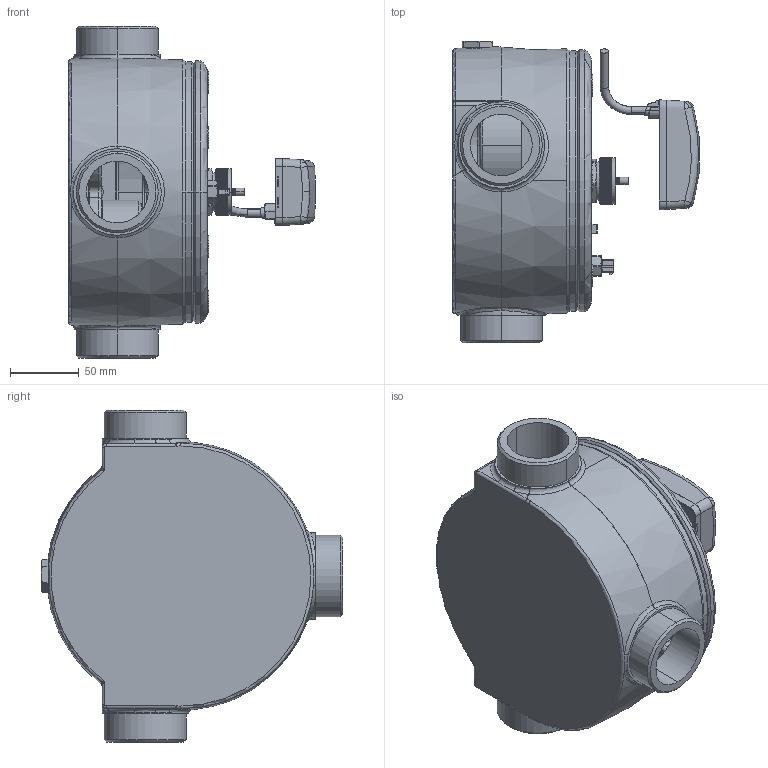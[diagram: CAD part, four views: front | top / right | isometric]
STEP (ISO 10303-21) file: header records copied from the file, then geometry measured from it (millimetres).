
FILE_DESCRIPTION (( 'STEP AP214' ), '1' );
FILE_NAME ('22TX96E37ELECV3.STEP', '2020-02-03T13:01:41', ( '' ), ( '' ), 'SwSTEP 2.0', 'SolidWorks 2017', '' );
FILE_SCHEMA (( 'AUTOMOTIVE_DESIGN' ));
Length unit declared in the file: millimetre
Products named in the file (29): 22TX96E37EV3_Enveloppe; 22014733; 22108611_22108611PE; 22018973; 22108637; 22113429 22113439 22113449 22113459 22113469_22113469; 22014725; 22091060_22110600_22110600M_22110601M; 1487128; 22018887; 148702800002; 028876700001_courb‚; 1589063_STRAIN_RELIEF; 1788016_asm_enveloppe; 22016123; 22TX96E37ELECV3; 22100382_22100382C; 1589063_SUB_ASM; 22018884; 22016518; 22012562; 148831500104; 22080640_Enveloppe; 1589063_ASM_enveloppe; 04082016_012; 22019082_enveloppe; 22014888; 04082016_011; 08082016_003
Assembly tree (33 placements, depth 6):
  22TX96E37ELECV3
    22TX96E37EV3_Enveloppe
      22108611_22108611PE
      22080640_Enveloppe
        22091060_22110600_22110600M_22110601M
        22012562
        22014888
        22018973
        22113429 22113439 22113449 22113459 22113469_22113469
        22108637
        22016518
        22014725
      22016123  x6
      22014733
      22100382_22100382C
    22019082_enveloppe
      1788016_asm_enveloppe
        148702800002
        148831500104
        1589063_ASM_enveloppe
          1589063_SUB_ASM
            1589063_STRAIN_RELIEF
          028876700001_courb‚
        1487128
    22018884
      22018887
        04082016_011
        04082016_012
        08082016_003
Bounding box: 179.86 x 219.9 x 242 mm (x, y, z)
Volume: 1219536.1 mm3; surface area: 417647.2 mm2
Topology: 24 solids, 24 shells, 2159 faces, 5383 edges, 3246 vertices
Faces by surface type: plane 744, cylinder 578, bspline 343, cone 265, torus 195, sphere 34
Entity records: 122699 total; most frequent: CARTESIAN_POINT 61862, ORIENTED_EDGE 13356, DIRECTION 10796, EDGE_CURVE 6678, AXIS2_PLACEMENT_3D 4197, VERTEX_POINT 4182, EDGE_LOOP 2810, ADVANCED_FACE 2640
